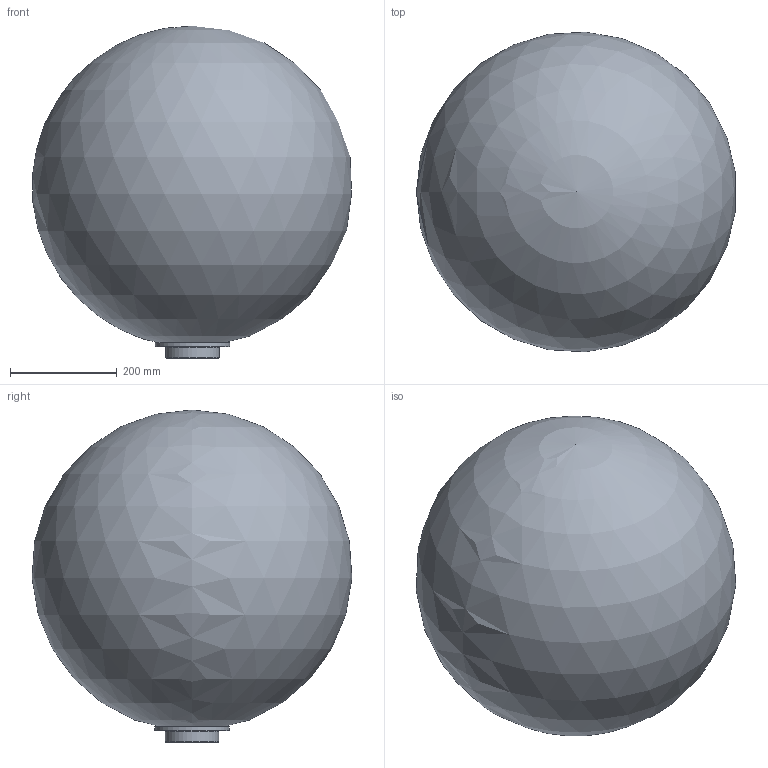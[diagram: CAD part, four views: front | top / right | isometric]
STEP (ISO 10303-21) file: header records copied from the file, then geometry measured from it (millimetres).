
FILE_DESCRIPTION(/* description */ (''),/* implementation_level */ '2;1');
FILE_NAME(/* name */ 'C:/Users/LukasGröber/GMS Cloud/Groeber Mannheim Lichtwerke - Dokumente/Marketing/Produkte/3D Daten/Kugel Sahara Stationär/Kugel Sahara 60 Stationär.step',/* time_stamp */ '2022-07-08T11:18:47+02:00',/* author */ (''),/* organization */ (''),/* preprocessor_version */ 'ST-DEVELOPER v19',/* originating_system */ 'Autodesk Translation Framework v11.7.0.108',/* authorisation */ '');
FILE_SCHEMA (('AUTOMOTIVE_DESIGN { 1 0 10303 214 3 1 1 }'));
Length unit declared in the file: millimetre
Products named in the file (3): Kugel Sahara 60 Stationär; Ring Stationär 30-60 (Modell); Kugel Sahara 600 Öffnung 80
Assembly tree (2 placements, depth 2):
  Kugel Sahara 60 Stationär
    Ring Stationär 30-60 (Modell)
    Kugel Sahara 600 Öffnung 80
Bounding box: 596.95 x 598.27 x 621.32 mm (x, y, z)
Volume: 5595643.5 mm3; surface area: 2249073.4 mm2
Topology: 2 solids, 2 shells, 15 faces, 31 edges, 19 vertices
Faces by surface type: cylinder 4, cone 3, plane 3, torus 3, sphere 2
Full cylindrical faces by diameter (mm): 80 x1, 94 x1, 100 x1, 140 x1
Entity records: 500 total; most frequent: DIRECTION 91, CARTESIAN_POINT 68, ORIENTED_EDGE 58, AXIS2_PLACEMENT_3D 42, EDGE_CURVE 29, CIRCLE 22, VERTEX_POINT 19, EDGE_LOOP 18
